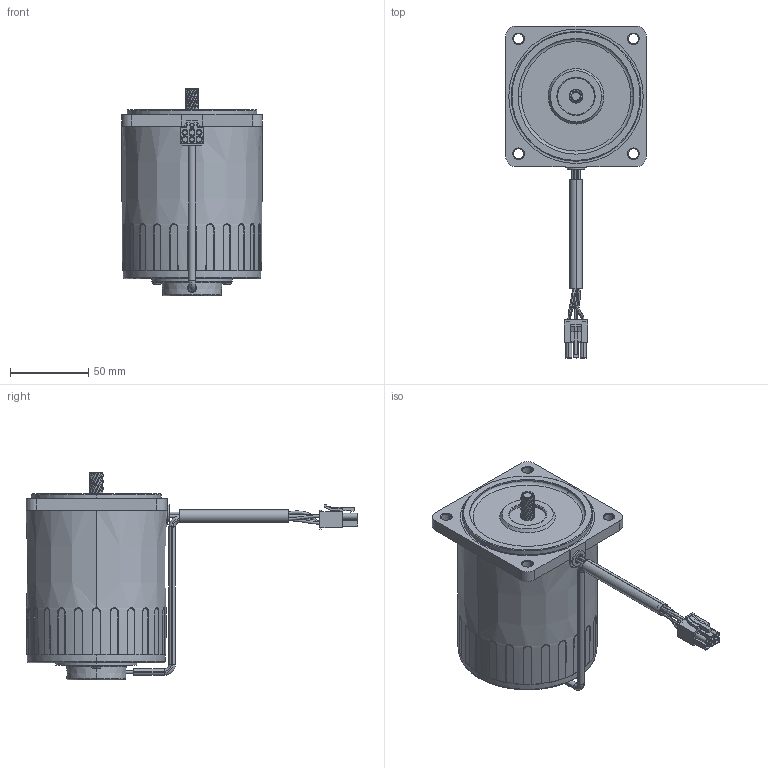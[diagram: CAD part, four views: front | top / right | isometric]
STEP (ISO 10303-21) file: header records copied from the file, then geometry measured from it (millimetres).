
FILE_DESCRIPTION (( 'STEP AP214' ), '1' );
FILE_NAME ('ACP-M-5IK40N-V.STEP', '2009-11-11T23:27:55', ( 'Tim Raines' ), ( 'Anaheim Automation' ), 'SwSTEP 2.0', 'SolidWorks 2009', '' );
FILE_SCHEMA (( 'AUTOMOTIVE_DESIGN' ));
Length unit declared in the file: millimetre
Products named in the file (1): ACP-M-5IK40N-V
Bounding box: 90 x 212.4 x 133 mm (x, y, z)
Volume: 692955 mm3; surface area: 69437.2 mm2
Topology: 1 solids, 1 shells, 1203 faces, 2988 edges, 1774 vertices
Faces by surface type: bspline 434, plane 302, cylinder 296, torus 145, cone 26
Entity records: 70152 total; most frequent: CARTESIAN_POINT 31298, ORIENTED_EDGE 5880, DIRECTION 4724, EDGE_CURVE 2940, AXIS2_PLACEMENT_3D 1925, VERTEX_POINT 1774, EDGE_LOOP 1266, UNCERTAINTY_MEASURE_WITH_UNIT 1206
